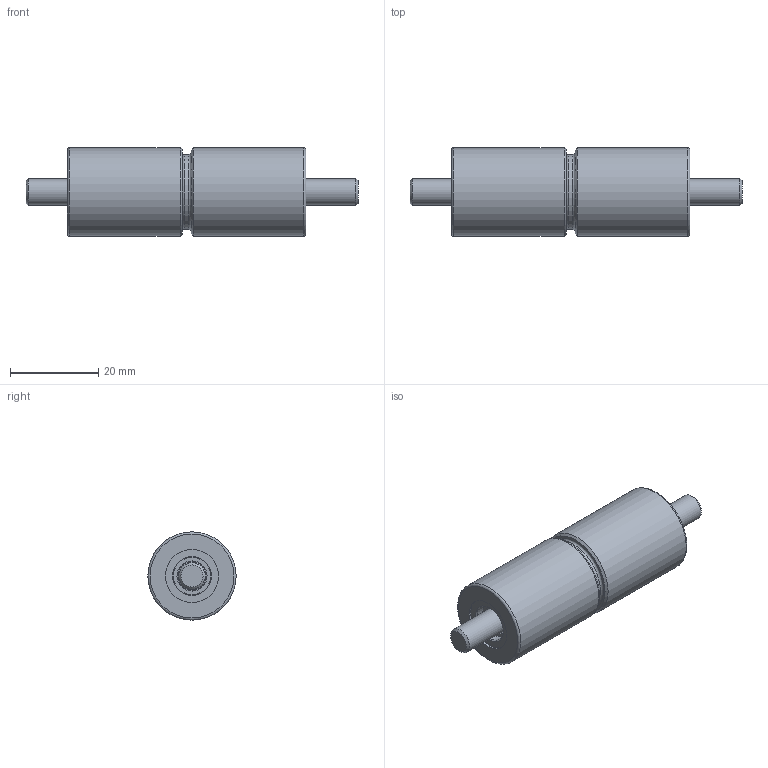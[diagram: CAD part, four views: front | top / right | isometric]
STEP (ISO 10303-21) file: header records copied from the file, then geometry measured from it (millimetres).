
FILE_DESCRIPTION(/* description */ ('STEP AP214'),/* implementation_level */ '2;1');
FILE_NAME(/* name */ 'MEL-20.stp',/* time_stamp */ '2026-03-26T10:34:53-04:00',/* author */ ('MainUser'),/* organization */ ('CADClick - www.CADClick.com'),/* preprocessor_version */ 'ST-DEVELOPER v20',/* originating_system */ 'Autodesk Inventor 2025',/* authorisation */ 'unknown authorization');
FILE_SCHEMA (('AUTOMOTIVE_DESIGN { 1 0 10303 214 3 1 1 }'));
Length unit declared in the file: inch
Products named in the file (6): Z051_20_1; Z31/6x40; Z31/6x20; Z0512/20-01; Z0512/20-01_1; Z0511/20-01
Assembly tree (5 placements, depth 3):
  Z051_20_1
    Z31/6x40
    Z31/6x20
    Z0512/20-01
      Z0512/20-01_1
    Z0511/20-01
Bounding box: 75.2 x 20 x 20 mm (x, y, z)
Volume: 15961 mm3; surface area: 8240.6 mm2
Topology: 4 solids, 4 shells, 81 faces, 161 edges, 100 vertices
Faces by surface type: plane 44, cylinder 19, torus 9, cone 9
Full cylindrical faces by diameter (mm): 5.998 x2, 6 x2, 6.8 x2, 8.2 x1, 8.5 x2, 10 x2, 11 x2, 12 x2, 13.2 x1, 17 x1, 20 x2
Entity records: 2403 total; most frequent: DIRECTION 426, CARTESIAN_POINT 351, ORIENTED_EDGE 318, AXIS2_PLACEMENT_3D 175, EDGE_CURVE 159, VERTEX_POINT 100, EDGE_LOOP 99, CIRCLE 83
